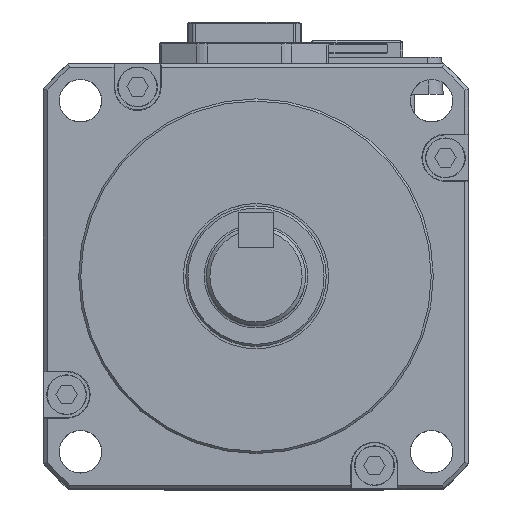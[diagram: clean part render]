
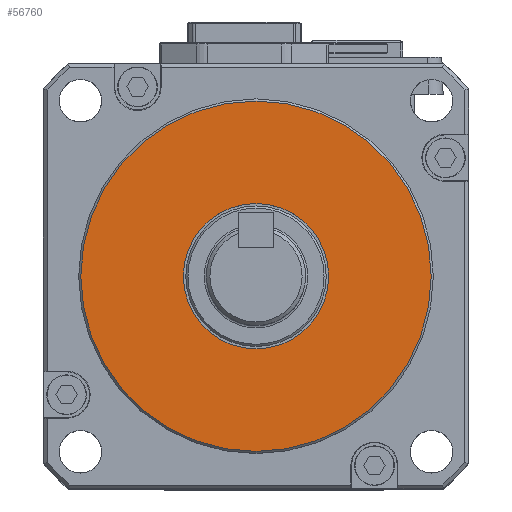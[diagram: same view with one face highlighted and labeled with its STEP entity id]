
A CAD part, top view. The second image highlights one B-rep face of the part: STEP entity #56760.
In plain terms, the highlighted planar face has unit normal (0, 0, 1).
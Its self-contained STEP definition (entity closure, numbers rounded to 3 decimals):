
#145 = CIRCLE ( 'NONE', #38549, 24.7 ) ;
#677 = CIRCLE ( 'NONE', #26644, 10.25 ) ;
#3940 = CARTESIAN_POINT ( 'NONE',  ( 24.7, 0., 10. ) ) ;
#5021 = DIRECTION ( 'NONE',  ( 0., 0., 1. ) ) ;
#8515 = CARTESIAN_POINT ( 'NONE',  ( 10.25, 0., 10. ) ) ;
#11933 = EDGE_CURVE ( 'NONE', #56016, #56016, #677, .T. ) ;
#12515 = DIRECTION ( 'NONE',  ( 1., 0., 0. ) ) ;
#17662 = DIRECTION ( 'NONE',  ( 0., 0., 1. ) ) ;
#26644 = AXIS2_PLACEMENT_3D ( 'NONE', #32718, #33737, #12515 ) ;
#29296 = EDGE_LOOP ( 'NONE', ( #67760 ) ) ;
#32563 = EDGE_LOOP ( 'NONE', ( #51335 ) ) ;
#32718 = CARTESIAN_POINT ( 'NONE',  ( 0., 0., 10. ) ) ;
#33737 = DIRECTION ( 'NONE',  ( 0., 0., 1. ) ) ;
#35362 = AXIS2_PLACEMENT_3D ( 'NONE', #46007, #17662, #67561 ) ;
#38549 = AXIS2_PLACEMENT_3D ( 'NONE', #69435, #5021, #57258 ) ;
#42189 = VERTEX_POINT ( 'NONE', #3940 ) ;
#46007 = CARTESIAN_POINT ( 'NONE',  ( 0., 0., 10. ) ) ;
#51333 = PLANE ( 'NONE',  #35362 ) ;
#51335 = ORIENTED_EDGE ( 'NONE', *, *, #65011, .T. ) ;
#56016 = VERTEX_POINT ( 'NONE', #8515 ) ;
#56760 = ADVANCED_FACE ( 'NONE', ( #67218, #57022 ), #51333, .T. ) ;
#57022 = FACE_BOUND ( 'NONE', #29296, .T. ) ;
#57258 = DIRECTION ( 'NONE',  ( 1., 0., 0. ) ) ;
#65011 = EDGE_CURVE ( 'NONE', #42189, #42189, #145, .T. ) ;
#67218 = FACE_OUTER_BOUND ( 'NONE', #32563, .T. ) ;
#67561 = DIRECTION ( 'NONE',  ( 1., 0., 0. ) ) ;
#67760 = ORIENTED_EDGE ( 'NONE', *, *, #11933, .F. ) ;
#69435 = CARTESIAN_POINT ( 'NONE',  ( 0., 0., 10. ) ) ;
